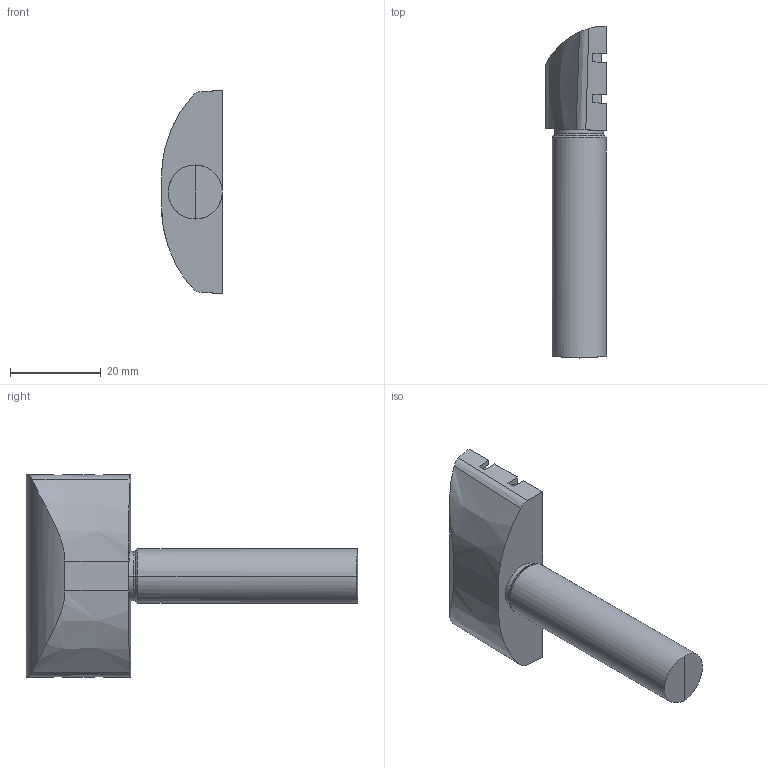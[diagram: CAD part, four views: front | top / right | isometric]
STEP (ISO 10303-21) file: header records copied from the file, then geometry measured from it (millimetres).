
FILE_DESCRIPTION (( 'STEP AP214' ), '1' );
FILE_NAME ('067RCB1SEU002.STEP', '2024-09-23T10:49:00', ( '' ), ( '' ), 'SwSTEP 2.0', 'SolidWorks 2023', '' );
FILE_SCHEMA (( 'AUTOMOTIVE_DESIGN' ));
Length unit declared in the file: millimetre
Products named in the file (5): 067RCB1SEU002(2); 067RCB1SEU002; 067RCB1SES004; 067RCB1SES006; 067RCB1SEU002(1)
Assembly tree (4 placements, depth 4):
  067RCB1SEU002
    067RCB1SEU002(2)
      067RCB1SEU002(1)
        067RCB1SES004
        067RCB1SES006
Bounding box: 13.4 x 73 x 44.6 mm (x, y, z)
Volume: 11590.2 mm3; surface area: 8086.3 mm2
Topology: 2 solids, 2 shells, 69 faces, 177 edges, 116 vertices
Faces by surface type: plane 53, cylinder 6, bspline 6, torus 4
Entity records: 2776 total; most frequent: CARTESIAN_POINT 866, ORIENTED_EDGE 354, DIRECTION 302, EDGE_CURVE 177, LINE 138, VECTOR 138, VERTEX_POINT 116, AXIS2_PLACEMENT_3D 82
